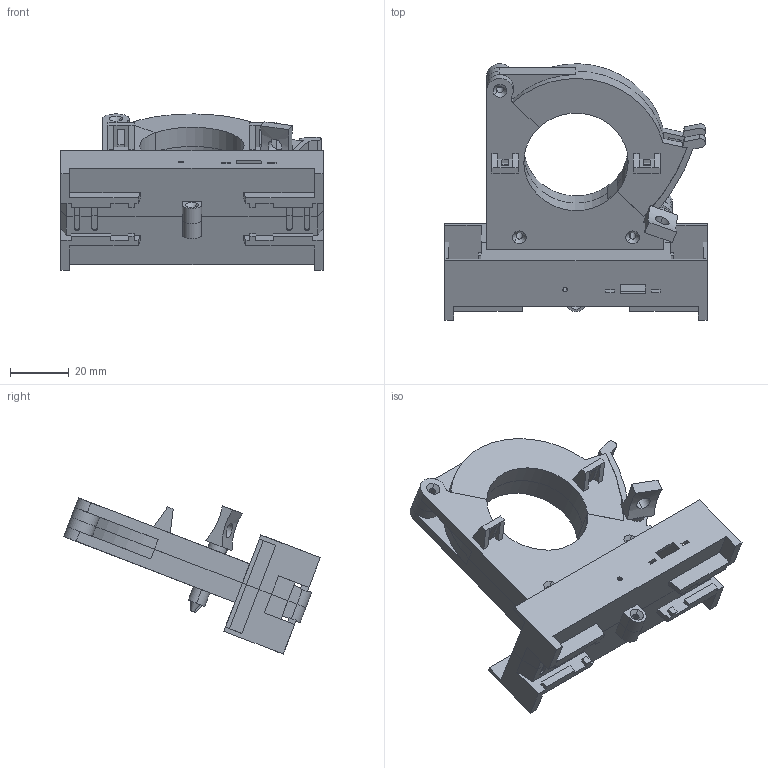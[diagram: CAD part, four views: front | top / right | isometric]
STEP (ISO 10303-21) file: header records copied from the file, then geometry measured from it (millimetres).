
FILE_DESCRIPTION(('CATIA V5 STEP Exchange'),'2;1');
FILE_NAME('C:\Users\livin\Desktop\Split Core\REV10 stampa\Assieme.stp','2022-03-09T20:08:40+00:00',('none'),('none'),'CATIA Version 5 Release 21 GA (IN-10)','CATIA V5 STEP AP203','none');
FILE_SCHEMA(('CONFIG_CONTROL_DESIGN'));
Length unit declared in the file: millimetre
Products named in the file (3): SplitCore; Case; Nucleo
Assembly tree (8 placements, depth 3):
  SplitCore
    Case
      #66
      #5821
      #12741
      #14646
      #17119
    Nucleo
    #17922
Bounding box: 89 x 87.01 x 52.96 mm (x, y, z)
Volume: 33053.2 mm3; surface area: 44319.3 mm2
Topology: 6 solids, 6 shells, 606 faces, 1694 edges, 1117 vertices
Faces by surface type: plane 469, cylinder 127, cone 8, bspline 2
Entity records: 18568 total; most frequent: CARTESIAN_POINT 3436, ORIENTED_EDGE 3388, DIRECTION 2572, EDGE_CURVE 1694, VECTOR 1328, LINE 1328, VERTEX_POINT 1117, AXIS2_PLACEMENT_3D 797
